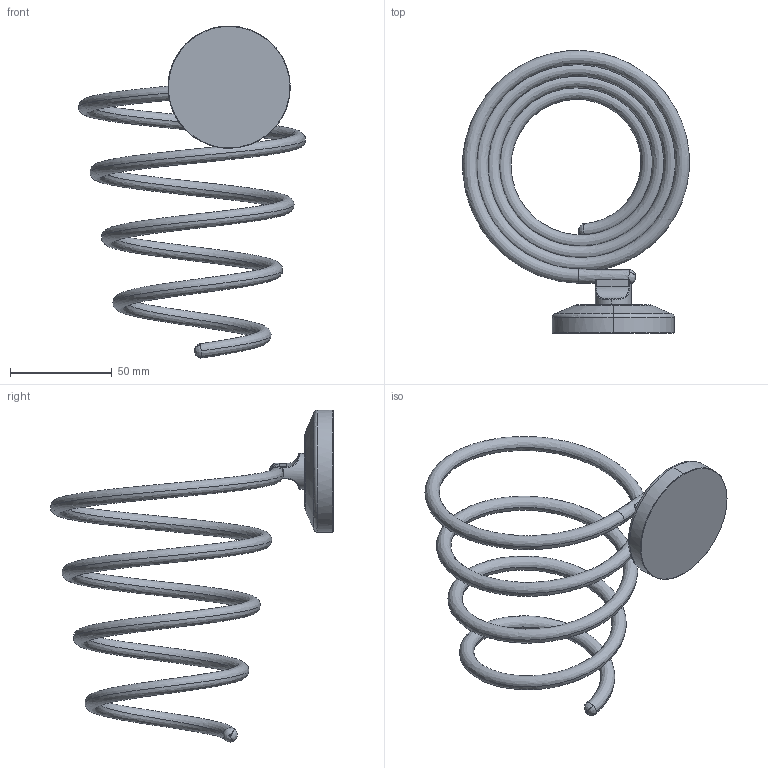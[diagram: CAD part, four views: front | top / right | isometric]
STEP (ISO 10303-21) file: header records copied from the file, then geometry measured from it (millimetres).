
FILE_DESCRIPTION(('THIS FILE CONTAINS SOME STEP INSTANCES'),'1');
FILE_NAME('sta_080.stp','2015-12-10T11:21:45',('UNDEFINED'),('UNDEFINED'),'T-FLEX CAD STEP converter','T-FLEX CAD','');
FILE_SCHEMA(('CONFIG_CONTROL_DESIGN'));
Length unit declared in the file: metre
Products named in the file (1): 3D 鐨飹懤艜_6
Bounding box: 111.11 x 138.64 x 162.79 mm (x, y, z)
Volume: 80104.9 mm3; surface area: 32643.7 mm2
Topology: 1 solids, 1 shells, 47 faces, 105 edges, 61 vertices
Faces by surface type: bspline 21, cylinder 10, cone 6, plane 6, torus 4
Entity records: 10959 total; most frequent: CARTESIAN_POINT 10136, ORIENTED_EDGE 210, EDGE_CURVE 105, DIRECTION 96, VERTEX_POINT 61, B_SPLINE_CURVE_WITH_KNOTS 59, EDGE_LOOP 48, ADVANCED_FACE 47
